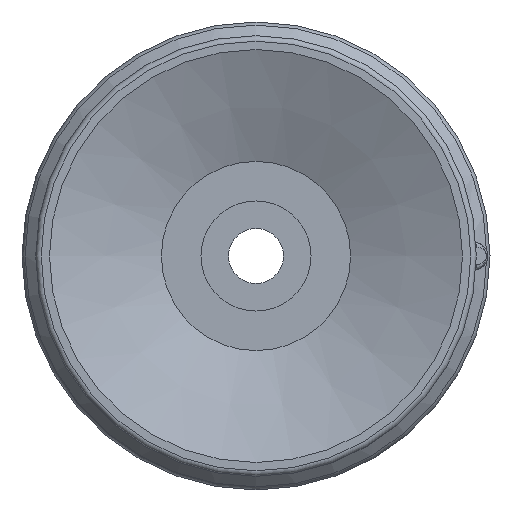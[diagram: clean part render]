
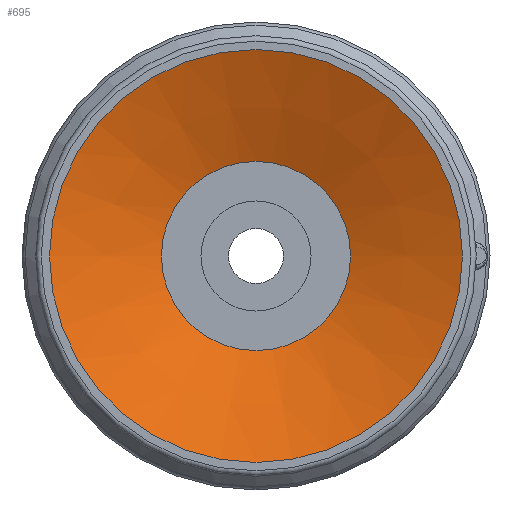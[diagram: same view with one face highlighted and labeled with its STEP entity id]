
A CAD part, front view. The second image highlights one B-rep face of the part: STEP entity #695.
In plain terms, the highlighted conical face has half-angle 67.5 degrees and reference radius 3.437 mm.
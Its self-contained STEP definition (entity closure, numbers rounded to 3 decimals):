
#695=ADVANCED_FACE('',(#972,#973),#974,.F.);
#972=FACE_BOUND('',#2314,.T.);
#973=FACE_OUTER_BOUND('',#2315,.T.);
#974=CONICAL_SURFACE('',#2316,3.437,1.178);
#2314=EDGE_LOOP('',(#3071));
#2315=EDGE_LOOP('',(#3072));
#2316=AXIS2_PLACEMENT_3D('',#3073,#3074,#3075);
#3071=ORIENTED_EDGE('',*,*,#3447,.F.);
#3072=ORIENTED_EDGE('',*,*,#3435,.T.);
#3073=CARTESIAN_POINT('',(0.0,0.0,1.683));
#3074=DIRECTION('',(0.0,0.,-1.0));
#3075=DIRECTION('',(0.0,1.0,0.));
#3435=EDGE_CURVE('',#3797,#3797,#3798,.T.);
#3447=EDGE_CURVE('',#3821,#3821,#3822,.T.);
#3797=VERTEX_POINT('',#4754);
#3798=CIRCLE('',#4755,7.5);
#3821=VERTEX_POINT('',#4778);
#3822=CIRCLE('',#4779,3.437);
#4754=CARTESIAN_POINT('',(-7.5,0.0,0.));
#4755=AXIS2_PLACEMENT_3D('',#5100,#5101,#5102);
#4778=CARTESIAN_POINT('',(-3.437,0.0,1.683));
#4779=AXIS2_PLACEMENT_3D('',#5136,#5137,#5138);
#5100=CARTESIAN_POINT('',(0.0,0.0,0.));
#5101=DIRECTION('',(0.0,0.,-1.0));
#5102=DIRECTION('',(0.0,1.0,0.));
#5136=CARTESIAN_POINT('',(0.0,0.0,1.683));
#5137=DIRECTION('',(0.0,0.,-1.0));
#5138=DIRECTION('',(0.0,1.0,0.));
